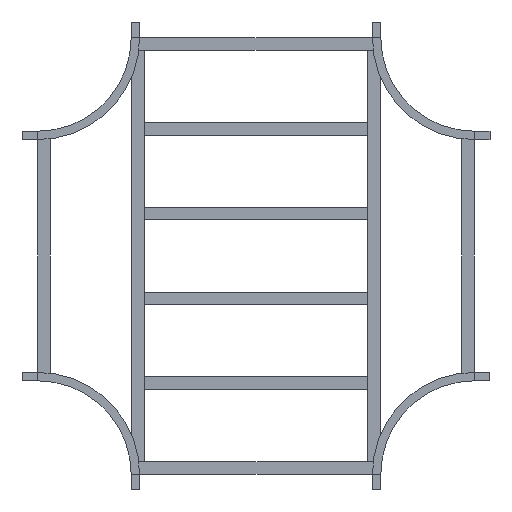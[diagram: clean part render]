
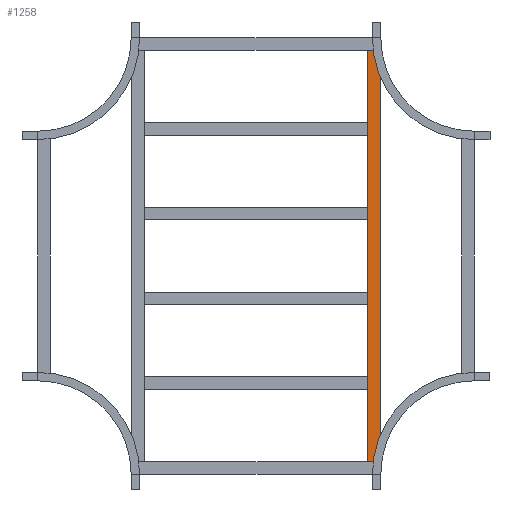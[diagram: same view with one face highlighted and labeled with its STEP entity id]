
A CAD part, front view. The second image highlights one B-rep face of the part: STEP entity #1258.
In plain terms, the highlighted planar face has unit normal (0, -1, 0).
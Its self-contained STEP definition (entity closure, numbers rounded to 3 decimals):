
#51 = VECTOR ( 'NONE', #405, 1000. ) ;
#70 = FACE_OUTER_BOUND ( 'NONE', #337, .T. ) ;
#165 = CARTESIAN_POINT ( 'NONE',  ( -659.5, 0., 20.25 ) ) ;
#171 = VECTOR ( 'NONE', #179, 1000. ) ;
#179 = DIRECTION ( 'NONE',  ( -1., 0., 0. ) ) ;
#325 = ORIENTED_EDGE ( 'NONE', *, *, #782, .T. ) ;
#337 = EDGE_LOOP ( 'NONE', ( #1281, #1317, #598, #325 ) ) ;
#391 = CARTESIAN_POINT ( 'NONE',  ( 659.5, 0., 20.25 ) ) ;
#405 = DIRECTION ( 'NONE',  ( 0., 0., -1. ) ) ;
#422 = LINE ( 'NONE', #885, #724 ) ;
#485 = PLANE ( 'NONE',  #820 ) ;
#505 = DIRECTION ( 'NONE',  ( -1., 0., 0. ) ) ;
#538 = LINE ( 'NONE', #1319, #51 ) ;
#554 = VERTEX_POINT ( 'NONE', #1282 ) ;
#567 = VERTEX_POINT ( 'NONE', #1027 ) ;
#598 = ORIENTED_EDGE ( 'NONE', *, *, #1346, .F. ) ;
#626 = CARTESIAN_POINT ( 'NONE',  ( 659.5, 0., -20.25 ) ) ;
#630 = LINE ( 'NONE', #977, #1217 ) ;
#701 = DIRECTION ( 'NONE',  ( 0., 1., 0. ) ) ;
#724 = VECTOR ( 'NONE', #505, 1000. ) ;
#727 = CARTESIAN_POINT ( 'NONE',  ( 659.5, 0., 20.25 ) ) ;
#782 = EDGE_CURVE ( 'NONE', #567, #1399, #831, .T. ) ;
#820 = AXIS2_PLACEMENT_3D ( 'NONE', #391, #701, #937 ) ;
#831 = LINE ( 'NONE', #727, #171 ) ;
#885 = CARTESIAN_POINT ( 'NONE',  ( 659.5, 0., -20.25 ) ) ;
#891 = EDGE_CURVE ( 'NONE', #972, #554, #422, .T. ) ;
#904 = EDGE_CURVE ( 'NONE', #1399, #554, #538, .T. ) ;
#937 = DIRECTION ( 'NONE',  ( 0., 0., 1. ) ) ;
#972 = VERTEX_POINT ( 'NONE', #626 ) ;
#977 = CARTESIAN_POINT ( 'NONE',  ( 659.5, 0., 20.25 ) ) ;
#1027 = CARTESIAN_POINT ( 'NONE',  ( 659.5, 0., 20.25 ) ) ;
#1176 = DIRECTION ( 'NONE',  ( 0., 0., -1. ) ) ;
#1217 = VECTOR ( 'NONE', #1176, 1000. ) ;
#1258 = ADVANCED_FACE ( 'NONE', ( #70 ), #485, .F. ) ;
#1281 = ORIENTED_EDGE ( 'NONE', *, *, #904, .T. ) ;
#1282 = CARTESIAN_POINT ( 'NONE',  ( -659.5, 0., -20.25 ) ) ;
#1317 = ORIENTED_EDGE ( 'NONE', *, *, #891, .F. ) ;
#1319 = CARTESIAN_POINT ( 'NONE',  ( -659.5, 0., 20.25 ) ) ;
#1346 = EDGE_CURVE ( 'NONE', #567, #972, #630, .T. ) ;
#1399 = VERTEX_POINT ( 'NONE', #165 ) ;
